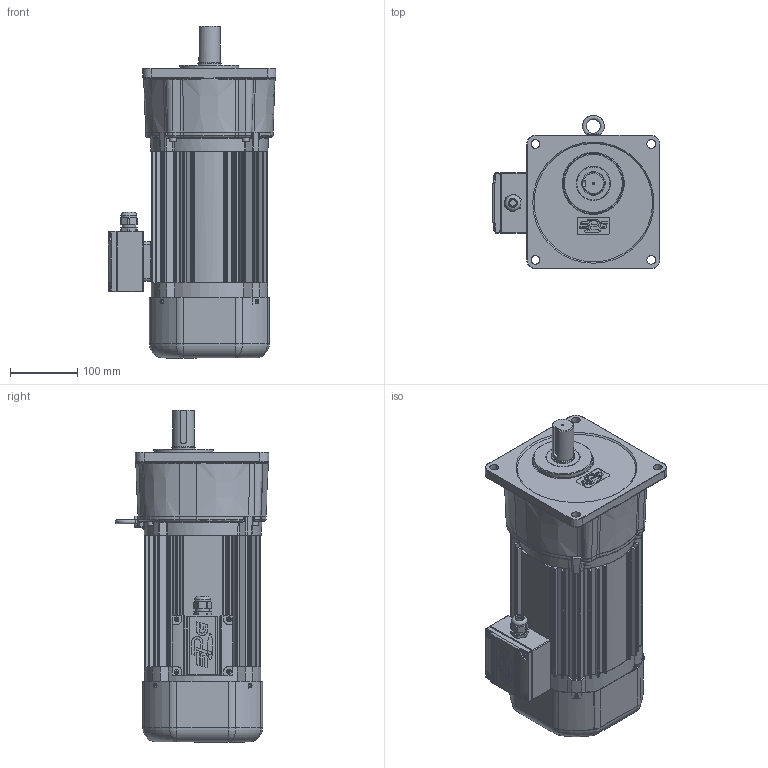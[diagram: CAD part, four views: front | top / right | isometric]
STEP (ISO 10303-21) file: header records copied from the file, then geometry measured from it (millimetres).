
FILE_DESCRIPTION(/* description */ (''),/* implementation_level */ '2;1');
FILE_NAME(/* name */ 'Z:\동력 3D 파일\PAK32_1.5kW_Brake_3D.stp',/* time_stamp */ '2021-11-09T09:07:25+09:00',/* author */ ('jaebok'),/* organization */ (''),/* preprocessor_version */ 'ST-DEVELOPER v18.1',/* originating_system */ 'Autodesk Inventor 2022',/* authorisation */ '');
FILE_SCHEMA (('AUTOMOTIVE_DESIGN { 1 0 10303 214 3 1 1 }'));
Products named in the file (1): 부품18
Bounding box: 249.5 x 227.8 x 493.3 mm (x, y, z)
Volume: 3936406.7 mm3; surface area: 953007.9 mm2
Topology: 1 solids, 28 shells, 3077 faces, 7703 edges, 4569 vertices
Faces by surface type: plane 950, cylinder 812, bspline 705, torus 273, cone 197, sphere 140
Full cylindrical faces by diameter (mm): 2 x2, 3.25 x1, 3.6 x4, 4 x22, 4.917 x4, 5 x20, 6 x9, 6.5 x4, 6.647 x1, 7 x13, 8 x1, 9.5 x4, 10 x5, 12.5 x1, 15 x1, 20 x2, 20.6 x1, 21 x1, 21.8 x1, 22 x2, 23.6 x1, 25 x1, 30 x1, 31.8 x2, 32 x2, 34.8 x1, 35 x3, 36 x1, 37 x1, 40 x1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
Entity records: 117103 total; most frequent: CARTESIAN_POINT 45197, ORIENTED_EDGE 14982, DIRECTION 13626, EDGE_CURVE 7491, AXIS2_PLACEMENT_3D 5546, VERTEX_POINT 4568, EDGE_LOOP 3292, CIRCLE 3128
